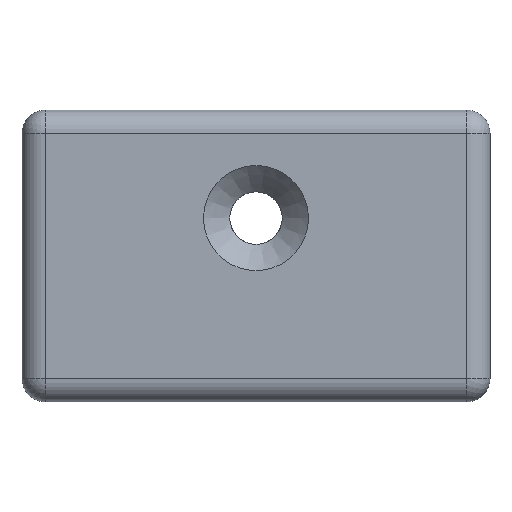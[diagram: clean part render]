
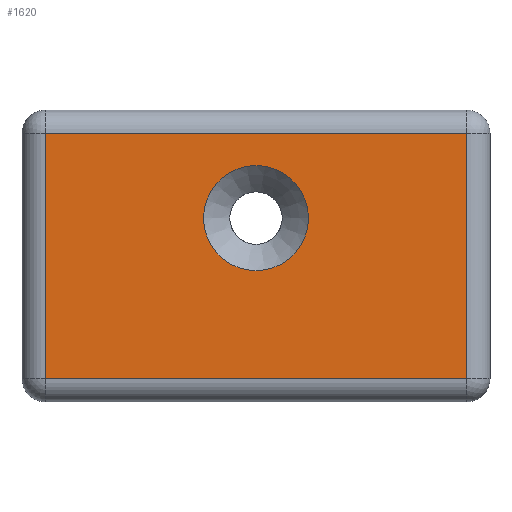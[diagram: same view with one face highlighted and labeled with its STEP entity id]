
A CAD part, front view. The second image highlights one B-rep face of the part: STEP entity #1620.
In plain terms, the highlighted planar face has unit normal (0, -1, 0).
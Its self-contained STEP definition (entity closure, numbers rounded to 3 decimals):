
#16=FACE_BOUND('',#190,.T.);
#50=CIRCLE('',#1746,4.5);
#100=FACE_OUTER_BOUND('',#189,.T.);
#189=EDGE_LOOP('',(#1197,#1198,#1199,#1200));
#190=EDGE_LOOP('',(#1201));
#302=LINE('',#2378,#508);
#308=LINE('',#2407,#514);
#310=LINE('',#2410,#516);
#312=LINE('',#2413,#518);
#508=VECTOR('',#1930,10.);
#514=VECTOR('',#1962,10.);
#516=VECTOR('',#1966,10.);
#518=VECTOR('',#1970,10.);
#695=VERTEX_POINT('',#2353);
#700=VERTEX_POINT('',#2366);
#705=VERTEX_POINT('',#2382);
#710=VERTEX_POINT('',#2395);
#729=VERTEX_POINT('',#2452);
#873=EDGE_CURVE('',#695,#700,#302,.T.);
#887=EDGE_CURVE('',#700,#710,#308,.T.);
#889=EDGE_CURVE('',#710,#705,#310,.T.);
#891=EDGE_CURVE('',#705,#695,#312,.T.);
#911=EDGE_CURVE('',#729,#729,#50,.T.);
#1197=ORIENTED_EDGE('',*,*,#873,.F.);
#1198=ORIENTED_EDGE('',*,*,#891,.F.);
#1199=ORIENTED_EDGE('',*,*,#889,.F.);
#1200=ORIENTED_EDGE('',*,*,#887,.F.);
#1201=ORIENTED_EDGE('',*,*,#911,.T.);
#1535=PLANE('',#1745);
#1620=ADVANCED_FACE('',(#100,#16),#1535,.T.);
#1745=AXIS2_PLACEMENT_3D('',#2451,#1996,#1997);
#1746=AXIS2_PLACEMENT_3D('',#2453,#1998,#1999);
#1930=DIRECTION('',(-1.,0.,0.));
#1962=DIRECTION('',(0.,0.,1.));
#1966=DIRECTION('',(1.,0.,0.));
#1970=DIRECTION('',(0.,0.,-1.));
#1996=DIRECTION('center_axis',(0.,-1.,0.));
#1997=DIRECTION('ref_axis',(0.,0.,-1.));
#1998=DIRECTION('center_axis',(0.,1.,0.));
#1999=DIRECTION('ref_axis',(1.,0.,0.));
#2353=CARTESIAN_POINT('',(18.05,-2.5,-10.5));
#2366=CARTESIAN_POINT('',(-18.05,-2.5,-10.5));
#2378=CARTESIAN_POINT('',(-10.025,-2.5,-10.5));
#2382=CARTESIAN_POINT('',(18.05,-2.5,10.5));
#2395=CARTESIAN_POINT('',(-18.05,-2.5,10.5));
#2407=CARTESIAN_POINT('',(-18.05,-2.5,6.25));
#2410=CARTESIAN_POINT('',(10.025,-2.5,10.5));
#2413=CARTESIAN_POINT('',(18.05,-2.5,-6.25));
#2451=CARTESIAN_POINT('Origin',(0.,-2.5,0.));
#2452=CARTESIAN_POINT('',(-4.5,-2.5,3.25));
#2453=CARTESIAN_POINT('Origin',(0.,-2.5,3.25));
